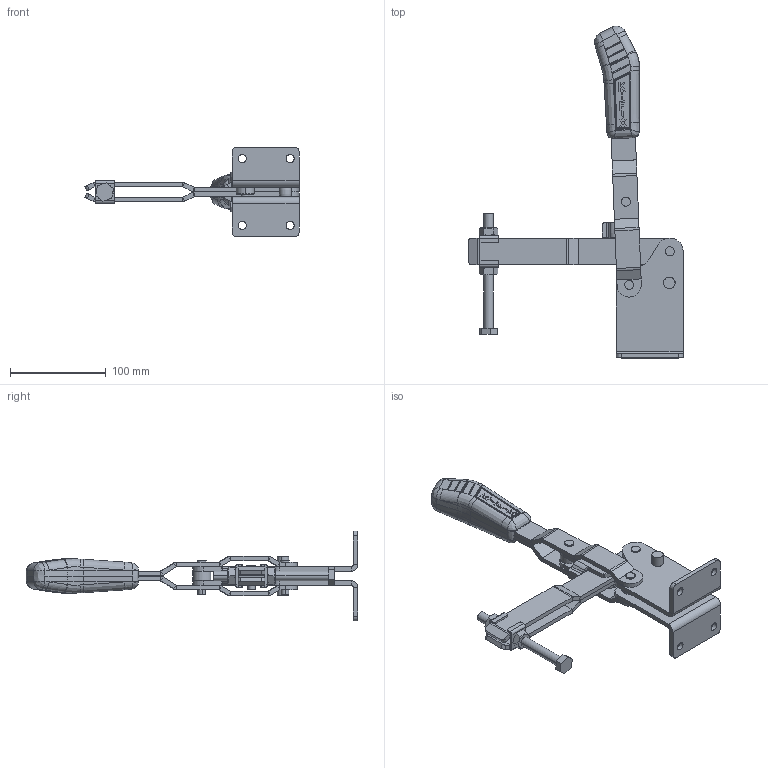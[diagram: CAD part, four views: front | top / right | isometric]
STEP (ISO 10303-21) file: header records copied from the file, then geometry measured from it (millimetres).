
FILE_DESCRIPTION (( 'STEP AP203' ), '1' );
FILE_NAME ('KF-641 DB.STEP', '2014-08-13T20:23:11', ( 'Ricardo' ), ( '' ), 'SwSTEP 2.0', 'SolidWorks 2013', '' );
FILE_SCHEMA (( 'CONFIG_CONTROL_DESIGN' ));
Length unit declared in the file: millimetre
Products named in the file (16): 07.60003; 08.10021_Esquerda; KF-641 DB; 16.20018; 05.20006; 02.12026_Direita; 3670000076; 02.12026_Esquerda; 3670000077; 01.10030; 14.10003; 03.13045; 11.50003; 03.13045_Esquerda; 12.50017; 08.10021_Direita
Assembly tree (21 placements, depth 2):
  KF-641 DB
    02.12026_Direita
    02.12026_Esquerda
    01.10030  x2
    03.13045
    03.13045_Esquerda
    08.10021_Direita
    08.10021_Esquerda
    16.20018
    05.20006  x2
    3670000076  x2
    3670000077  x2
    14.10003  x2
    11.50003  x2
    12.50017
    07.60003
Bounding box: 224.28 x 347.26 x 94 mm (x, y, z)
Volume: 362814 mm3; surface area: 154198.3 mm2
Topology: 21 solids, 21 shells, 889 faces, 2137 edges, 1303 vertices
Faces by surface type: plane 377, cylinder 284, bspline 147, sphere 48, cone 28, torus 5
Entity records: 27594 total; most frequent: CARTESIAN_POINT 9325, ORIENTED_EDGE 3658, DIRECTION 3056, EDGE_CURVE 1829, AXIS2_PLACEMENT_3D 1168, VERTEX_POINT 1127, EDGE_LOOP 830, FACE_OUTER_BOUND 755
